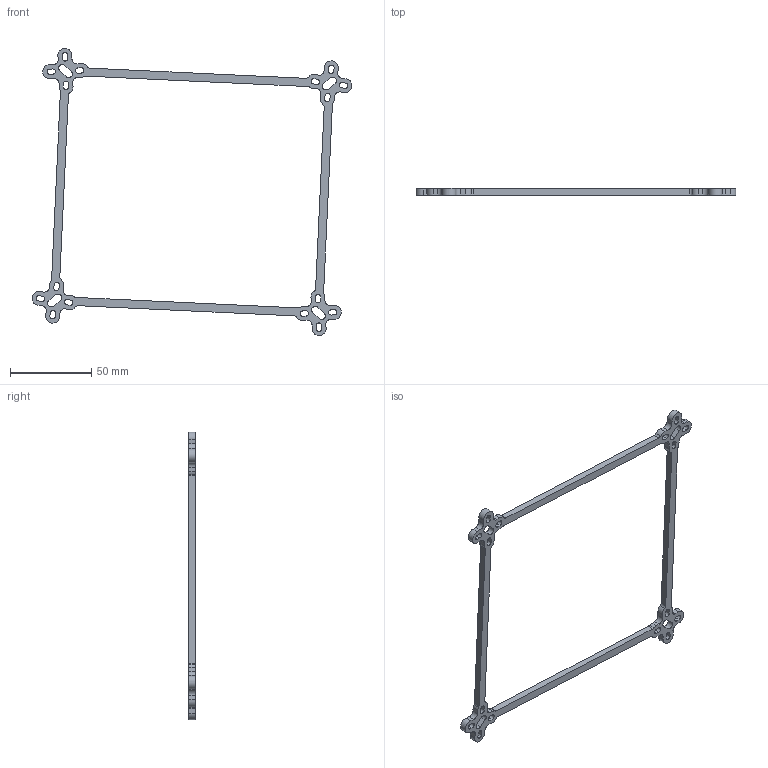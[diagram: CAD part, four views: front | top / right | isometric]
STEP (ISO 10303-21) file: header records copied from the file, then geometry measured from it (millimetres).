
FILE_DESCRIPTION(/* description */ (''),/* implementation_level */ '2;1');
FILE_NAME(/* name */ 'D:\3D Printing & CAD Work\Customers\My self\Drone 3.0\Thingiverce\Part6.stp',/* time_stamp */ '2018-11-19T19:03:12+02:00',/* author */ ('Damien'),/* organization */ (''),/* preprocessor_version */ 'ST-DEVELOPER v17',/* originating_system */ 'Autodesk Inventor 2018',/* authorisation */ '');
FILE_SCHEMA (('AUTOMOTIVE_DESIGN { 1 0 10303 214 3 1 1 }'));
Length unit declared in the file: millimetre
Products named in the file (1): Part6
Bounding box: 196.54 x 4 x 176.52 mm (x, y, z)
Volume: 14475.3 mm3; surface area: 13849.1 mm2
Topology: 1 solids, 1 shells, 177 faces, 525 edges, 350 vertices
Faces by surface type: cylinder 95, plane 82
Entity records: 6112 total; most frequent: DIRECTION 1071, CARTESIAN_POINT 1053, ORIENTED_EDGE 1050, EDGE_CURVE 525, AXIS2_PLACEMENT_3D 368, VERTEX_POINT 350, LINE 335, VECTOR 335
